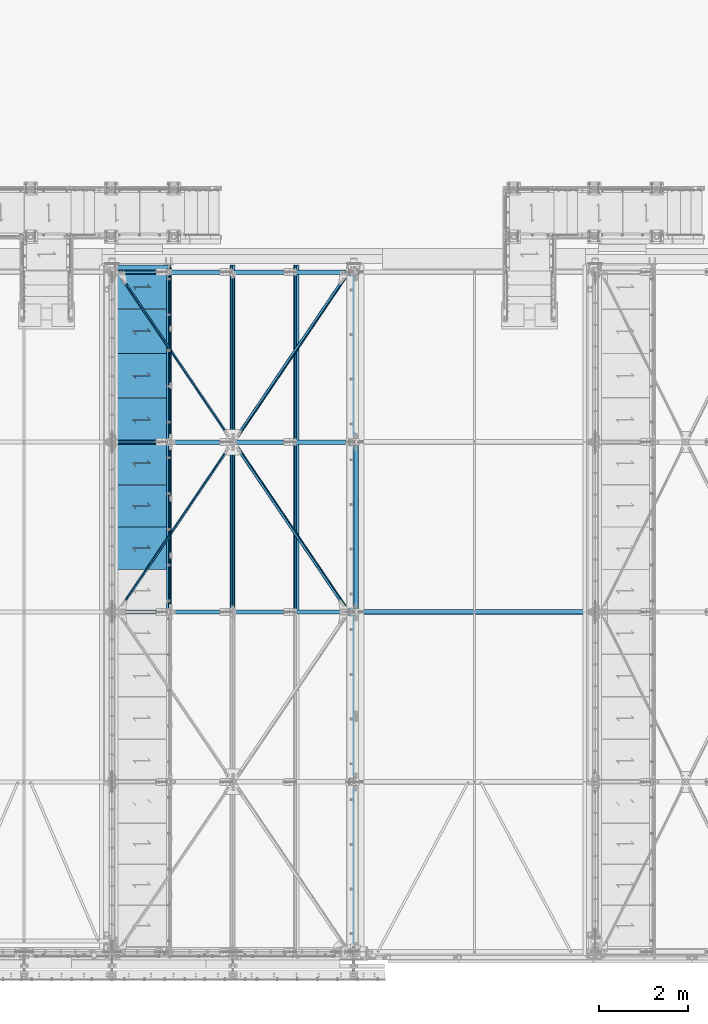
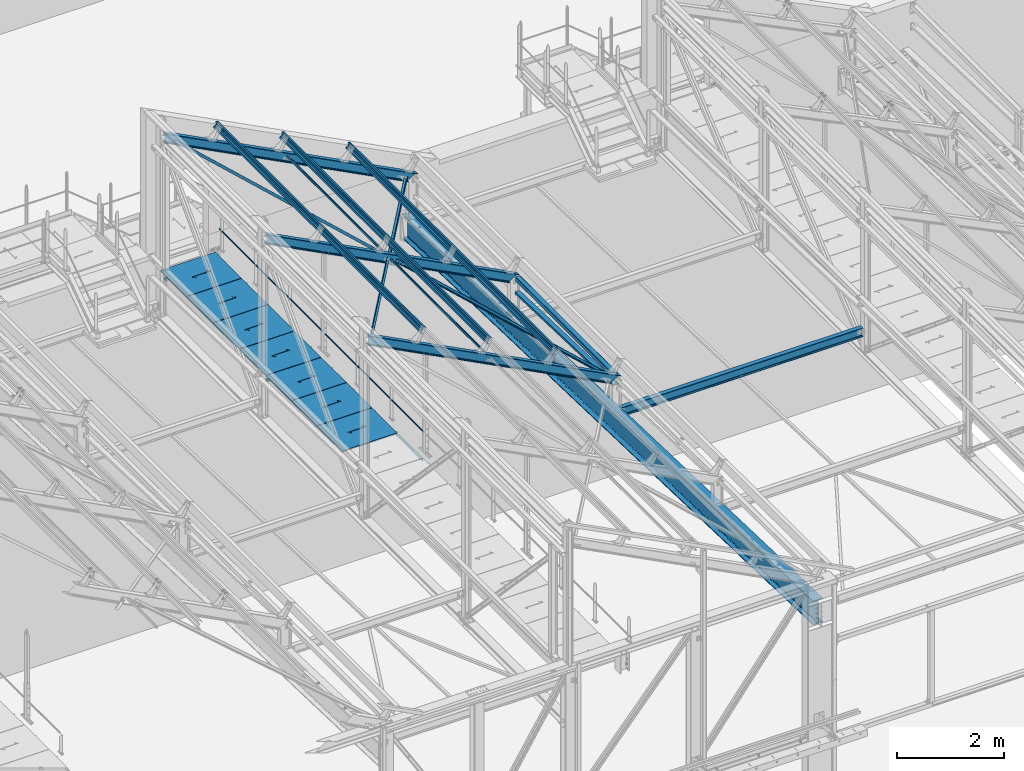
# One storey, part 51 of 362: 25 beams, 3 members, 28 elements without a shape of their own.
"""IFC2X3 building model written with IfcOpenShell, lengths in millimetres."""

from ifc_helpers import new_model, si_unit, frame, origin_with_axes, origin_2d_with_axis, place, context, subcontext, project, spatial, polyline, hollow_rectangle, hollow_circle, i_section, l_section, u_section, outline, extrude, boolean, clip, halfspace, material, type_object, element, aggregate, save


model = new_model("IFC2X3")

# Units and contexts
model_context = context("Model", 3, precision=1e-05, world=origin_with_axes())
body_context = subcontext(model_context, "Body", "Model", "MODEL_VIEW")
ifc_project = project(units=[si_unit("LENGTHUNIT", "METRE", prefix="MILLI"), si_unit("AREAUNIT", "SQUARE_METRE"), si_unit("VOLUMEUNIT", "CUBIC_METRE"), si_unit("MASSUNIT", "GRAM", prefix="KILO"), si_unit("TIMEUNIT", "SECOND"), si_unit("PLANEANGLEUNIT", "RADIAN"), si_unit("SOLIDANGLEUNIT", "STERADIAN"), si_unit("THERMODYNAMICTEMPERATUREUNIT", "DEGREE_CELSIUS"), si_unit("LUMINOUSINTENSITYUNIT", "LUMEN")], contexts=[model_context])

# Site, building, storey
site_placement = place(None, origin_with_axes())
site = spatial("IfcSite", under=ifc_project, at=site_placement, Name="Undefined", CompositionType="ELEMENT")
building_placement = place(site_placement, origin_with_axes())
building = spatial("IfcBuilding", under=site, at=building_placement, Name="Undefined", CompositionType="ELEMENT")
storey_placement = place(building_placement, origin_with_axes())
storey = spatial("IfcBuildingStorey", under=building, at=storey_placement, Name="Undefined", CompositionType="ELEMENT", Elevation=0.0)

# Assembly, beam
assembly_1_placement = place(storey_placement, origin_with_axes())
assembly_1 = element("IfcElementAssembly", 1, at=assembly_1_placement, inside=storey, Name="SUPPORT", AssemblyPlace="NOTDEFINED", PredefinedType="NOTDEFINED")
ifc_material_1 = material(Name="Undefined/S235-E24")
beam_type_1 = type_object("IfcBeamType", Name="L50*5", PredefinedType="NOTDEFINED")
beam_1_placement = place(assembly_1_placement, frame((24711.4916006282, 15280.0000894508, 8074.99999999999), z_axis=(-1.0, 0.0, 0.0), x_axis=(0.0, -1.0, 0.0)))
beam_1 = element("IfcBeam", 2, at=beam_1_placement, type_object=beam_type_1, material=ifc_material_1, Name="SUPPORT", ObjectType="L50*5", context=body_context, shape_type="SweptSolid", body=[
    extrude(l_section(Depth=50.0, Width=50.0, Thickness=5.0, FilletRadius=7.0, EdgeRadius=3.5, at=origin_2d_with_axis()), frame((7675.0000889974, 0.0, 0.0), z_axis=(-1.0, 0.0, 0.0), x_axis=(0.0, -1.0, 0.0)), (0.0, 0.0, 1.0), 7675.0),
])
aggregate(assembly_1, [beam_1])

assembly_2_placement = place(storey_placement, origin_with_axes())
assembly_2 = element("IfcElementAssembly", 3, at=assembly_2_placement, inside=storey, AssemblyPlace="NOTDEFINED", PredefinedType="NOTDEFINED")
beam_type_2 = type_object("IfcBeamType", Name="L60*6", PredefinedType="NOTDEFINED")
beam_2_placement = place(assembly_2_placement, frame((26190.921148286, 11401.8186771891, 9916.45624310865), z_axis=(0.460093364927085, 0.0, 0.887870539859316), x_axis=(0.538249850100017, -0.795292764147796, -0.278920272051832)))
beam_2 = element("IfcBeam", 4, at=beam_2_placement, type_object=beam_type_2, material=ifc_material_1, Name="STABILITE CVT", ObjectType="L60*6", context=body_context, shape_type="Clipping", body=[
    clip(clip(extrude(l_section(Depth=60.0, Width=60.0, Thickness=6.0, FilletRadius=8.0, EdgeRadius=4.0, at=origin_2d_with_axis()), frame((4708.91827219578, 3.96472565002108e-12, 1.30698737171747e-13), z_axis=(-1.0, 0.0, 0.0), x_axis=(0.0, -1.0, 0.0)), (0.0, 0.0, 1.0), 4639.72), halfspace(frame((4626.03623708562, -29.992213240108, -29.9999759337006), z_axis=(-1.0, 0.0, 0.0), x_axis=(0.0, 1.0, 0.0)), True)), halfspace(frame((152.083672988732, -29.9999899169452, -29.9999991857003), z_axis=(1.0, 0.0, 0.0), x_axis=(0.0, 0.0, 1.0)), True)),
])
aggregate(assembly_2, [beam_2])

assembly_3_placement = place(storey_placement, origin_with_axes())
assembly_3 = element("IfcElementAssembly", 5, at=assembly_3_placement, inside=storey, AssemblyPlace="NOTDEFINED", PredefinedType="NOTDEFINED")
beam_3_placement = place(assembly_3_placement, frame((26190.9211477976, 11398.1813225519, 9916.45624339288), z_axis=(-0.70611707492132, 0.606225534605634, 0.365908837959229), x_axis=(0.53824982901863, 0.795292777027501, -0.278920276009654)))
beam_3 = element("IfcBeam", 6, at=beam_3_placement, type_object=beam_type_2, material=ifc_material_1, Name="STABILITE CVT", ObjectType="L60*6", context=body_context, shape_type="Clipping", body=[
    clip(clip(extrude(l_section(Depth=60.0, Width=60.0, Thickness=6.0, FilletRadius=8.0, EdgeRadius=4.0, at=origin_2d_with_axis()), frame((4708.91859471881, 0.0, -1.88433877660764e-12), z_axis=(-1.0, 0.0, 0.0), x_axis=(0.0, -1.0, 0.0)), (0.0, 0.0, 1.0), 4639.72), halfspace(frame((4626.03655887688, 30.0000266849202, -30.0000000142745), z_axis=(1.0, 0.0, 0.0), x_axis=(0.0, -1.0, 0.0)), False)), halfspace(frame((152.084005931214, 30.0000008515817, -30.0000120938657), z_axis=(1.0, 0.0, 0.0), x_axis=(0.0, -1.0, 0.0)), True)),
])
aggregate(assembly_3, [beam_3])

assembly_4_placement = place(storey_placement, origin_with_axes())
assembly_4 = element("IfcElementAssembly", 7, at=assembly_4_placement, inside=storey, AssemblyPlace="NOTDEFINED", PredefinedType="NOTDEFINED")
beam_4_placement = place(assembly_4_placement, frame((23614.8650365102, 15198.1813229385, 11251.3647310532), z_axis=(0.706117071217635, 0.60622555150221, -0.365908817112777), x_axis=(0.538249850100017, -0.795292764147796, -0.278920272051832)))
beam_4 = element("IfcBeam", 8, at=beam_4_placement, type_object=beam_type_2, material=ifc_material_1, Name="STABILITE CVT", ObjectType="L60*6", context=body_context, shape_type="Clipping", body=[
    clip(clip(extrude(l_section(Depth=60.0, Width=60.0, Thickness=6.0, FilletRadius=8.0, EdgeRadius=4.0, at=origin_2d_with_axis()), frame((4700.97227080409, 1.30478191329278e-13, 3.37702242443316e-12), z_axis=(-1.0, 0.0, 0.0), x_axis=(0.0, -1.0, 0.0)), (0.0, 0.0, 1.0), 4623.83), halfspace(frame((4626.03048038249, 29.9999980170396, -30.0000009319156), z_axis=(1.0, 0.0, 0.0), x_axis=(0.0, -1.0, 0.0)), False)), halfspace(frame((152.083880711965, 30.0000252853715, 30.0001237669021), z_axis=(1.0, 0.0, 0.0), x_axis=(0.0, 0.0, -1.0)), True)),
])
aggregate(assembly_4, [beam_4])

assembly_5_placement = place(storey_placement, origin_with_axes())
assembly_5 = element("IfcElementAssembly", 9, at=assembly_5_placement, inside=storey, AssemblyPlace="NOTDEFINED", PredefinedType="NOTDEFINED")
beam_5_placement = place(assembly_5_placement, frame((23614.8650363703, 7601.81867620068, 11251.3647310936), z_axis=(0.460093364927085, 0.0, 0.887870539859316), x_axis=(0.53824982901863, 0.795292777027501, -0.278920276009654)))
beam_5 = element("IfcBeam", 10, at=beam_5_placement, type_object=beam_type_2, material=ifc_material_1, Name="STABILITE CVT", ObjectType="L60*6", context=body_context, shape_type="Clipping", body=[
    clip(clip(extrude(l_section(Depth=60.0, Width=60.0, Thickness=6.0, FilletRadius=8.0, EdgeRadius=4.0, at=origin_2d_with_axis()), frame((4700.97259588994, 1.95717300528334e-13, 2.60956400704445e-13), z_axis=(-1.0, 0.0, 0.0), x_axis=(0.0, -1.0, 0.0)), (0.0, 0.0, 1.0), 4623.83), halfspace(frame((4626.03080505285, -29.9999975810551, -30.0000004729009), z_axis=(1.0, 0.0, 0.0), x_axis=(0.0, 0.0, 1.0)), False)), halfspace(frame((152.084204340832, -30.0000009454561, -29.9999746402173), z_axis=(1.0, 0.0, 0.0), x_axis=(0.0, 0.0, 1.0)), True)),
])
aggregate(assembly_5, [beam_5])

assembly_6_placement = place(storey_placement, origin_with_axes())
assembly_6 = element("IfcElementAssembly", 11, at=assembly_6_placement, inside=storey, Name="LISSE", AssemblyPlace="NOTDEFINED", PredefinedType="NOTDEFINED")
beam_type_3 = type_object("IfcBeamType", Name="UPF-100*50*4", PredefinedType="NOTDEFINED")
beam_6_placement = place(assembly_6_placement, frame((28930.0000000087, 7600.0, 8291.42237510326), z_axis=(1.0, 0.0, 0.0), x_axis=(0.0, 0.99950644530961, -0.0314144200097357)))
beam_6 = element("IfcBeam", 12, at=beam_6_placement, type_object=beam_type_3, material=ifc_material_1, Name="LISSE CONTREBARDAGE", ObjectType="UPF-100*50*4", context=body_context, shape_type="Clipping", body=[
    clip(clip(extrude(u_section(Depth=100.0, FlangeWidth=50.0, WebThickness=4.0, FlangeThickness=4.0, at=origin_2d_with_axis()), frame((3748.43648207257, 2.60100030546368e-14, 0.0), z_axis=(-1.0, 0.0, 0.0), x_axis=(0.0, -1.0, 0.0)), (0.0, 0.0, 1.0), 3695.0), halfspace(frame((3745.62054377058, 39.0942342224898, 54.9999999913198), z_axis=(-0.999506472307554, -0.0314135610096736, 0.0), x_axis=(0.0, 0.0, 1.0)), True)), halfspace(frame((53.9255505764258, 35.049685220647, 54.9999999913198), z_axis=(-0.999506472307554, -0.0314135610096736, 0.0), x_axis=(0.0, 0.0, 1.0)), False)),
])
aggregate(assembly_6, [beam_6])

assembly_7_placement = place(storey_placement, origin_with_axes())
assembly_7 = element("IfcElementAssembly", 13, at=assembly_7_placement, inside=storey, Name="LISSE", AssemblyPlace="NOTDEFINED", PredefinedType="NOTDEFINED")
beam_type_4 = type_object("IfcBeamType", Name="TUBE-C-100*100*4", PredefinedType="NOTDEFINED")
beam_7_placement = place(assembly_7_placement, frame((28929.9999999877, 7670.0, 8500.0), z_axis=(0.0, 0.0, 1.0), x_axis=(0.0, 1.0, 0.0)))
beam_7 = element("IfcBeam", 14, at=beam_7_placement, type_object=beam_type_4, material=ifc_material_1, Name="LISSE ACROTERE", ObjectType="TUBE-C-100*100*4", context=body_context, shape_type="SweptSolid", body=[
    extrude(hollow_rectangle(XDim=100.0, YDim=100.0, WallThickness=4.0, InnerFilletRadius=4.0, OuterFilletRadius=8.0, at=origin_2d_with_axis()), frame((3660.0, 0.0, 0.0), z_axis=(-1.0, 0.0, 0.0), x_axis=(0.0, -1.0, 0.0)), (0.0, 0.0, 1.0), 3660.0),
])
aggregate(assembly_7, [beam_7])

assembly_8_placement = place(storey_placement, origin_with_axes())
assembly_8 = element("IfcElementAssembly", 15, at=assembly_8_placement, inside=storey, AssemblyPlace="NOTDEFINED", PredefinedType="NOTDEFINED")
beam_type_5 = type_object("IfcBeamType", Name="TOLE30*980", PredefinedType="NOTDEFINED")
beam_8_placement = place(assembly_8_placement, frame((24726.4915934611, 15355.0001427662, 8115.0), z_axis=(0.0, 0.0, 1.0), x_axis=(-1.0, 0.0, 0.0)))
beam_8 = element("IfcBeam", 16, at=beam_8_placement, type_object=beam_type_5, material=ifc_material_1, Name="CAILLEBOTIS", ObjectType="TOLE30*980", context=body_context, shape_type="CSG", body=[
    boolean("DIFFERENCE", extrude(outline(polyline([(0.0, 0.0), (1179.99169921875, 0.0), (1179.99169921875, 980.0), (-9.39995516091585e-07, 980.0), (0.0, 0.0)])), frame((0.0, 0.0, -15.0), z_axis=(0.0, 0.0, 1.0), x_axis=(1.0, 0.0, 0.0)), (0.0, 0.0, 1.0), 30.0), extrude(outline(polyline([(0.0, 0.0), (9.99999999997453, 6.91215973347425e-11), (10.0000000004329, 75.8578643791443), (282.842712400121, -196.984848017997), (282.842712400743, -96.9848480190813), (272.842712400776, -96.9848480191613), (272.842712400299, -172.842712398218), (0.0, 100.0), (0.0, 0.0)])), frame((724.286946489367, 555.710676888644, -17.5), z_axis=(0.0, 0.0, 1.0), x_axis=(-0.707106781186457, -0.707106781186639, 0.0)), (0.0, 0.0, 1.0), 35.0)),
])
aggregate(assembly_8, [beam_8])

assembly_9_placement = place(storey_placement, origin_with_axes())
assembly_9 = element("IfcElementAssembly", 17, at=assembly_9_placement, inside=storey, AssemblyPlace="NOTDEFINED", PredefinedType="NOTDEFINED")
beam_9_placement = place(assembly_9_placement, frame((24726.4915934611, 14365.0001475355, 8115.0), z_axis=(0.0, 0.0, 1.0), x_axis=(-1.0, 0.0, 0.0)))
beam_9 = element("IfcBeam", 18, at=beam_9_placement, type_object=beam_type_5, material=ifc_material_1, Name="CAILLEBOTIS", ObjectType="TOLE30*980", context=body_context, shape_type="CSG", body=[
    boolean("DIFFERENCE", extrude(outline(polyline([(0.0, 0.0), (1179.99169921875, 0.0), (1179.99169921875, 980.0), (-9.39995516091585e-07, 980.0), (0.0, 0.0)])), frame((0.0, 0.0, -15.0), z_axis=(0.0, 0.0, 1.0), x_axis=(1.0, 0.0, 0.0)), (0.0, 0.0, 1.0), 30.0), extrude(outline(polyline([(0.0, 0.0), (9.99999999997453, 6.91215973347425e-11), (10.0000000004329, 75.8578643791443), (282.842712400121, -196.984848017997), (282.842712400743, -96.9848480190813), (272.842712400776, -96.9848480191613), (272.842712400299, -172.842712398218), (0.0, 100.0), (0.0, 0.0)])), frame((724.286946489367, 555.710676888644, -17.5), z_axis=(0.0, 0.0, 1.0), x_axis=(-0.707106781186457, -0.707106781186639, 0.0)), (0.0, 0.0, 1.0), 35.0)),
])
aggregate(assembly_9, [beam_9])

assembly_10_placement = place(storey_placement, origin_with_axes())
assembly_10 = element("IfcElementAssembly", 19, at=assembly_10_placement, inside=storey, AssemblyPlace="NOTDEFINED", PredefinedType="NOTDEFINED")
beam_10_placement = place(assembly_10_placement, frame((24726.4915934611, 13375.0001523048, 8115.0), z_axis=(0.0, 0.0, 1.0), x_axis=(-1.0, 0.0, 0.0)))
beam_10 = element("IfcBeam", 20, at=beam_10_placement, type_object=beam_type_5, material=ifc_material_1, Name="CAILLEBOTIS", ObjectType="TOLE30*980", context=body_context, shape_type="CSG", body=[
    boolean("DIFFERENCE", extrude(outline(polyline([(0.0, 0.0), (1179.99169921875, 0.0), (1179.99169921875, 980.0), (-9.39995516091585e-07, 980.0), (0.0, 0.0)])), frame((0.0, 0.0, -15.0), z_axis=(0.0, 0.0, 1.0), x_axis=(1.0, 0.0, 0.0)), (0.0, 0.0, 1.0), 30.0), extrude(outline(polyline([(0.0, 0.0), (9.99999999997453, 6.91215973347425e-11), (10.0000000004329, 75.8578643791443), (282.842712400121, -196.984848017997), (282.842712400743, -96.9848480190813), (272.842712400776, -96.9848480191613), (272.842712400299, -172.842712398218), (0.0, 100.0), (0.0, 0.0)])), frame((724.286946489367, 555.710676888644, -17.5), z_axis=(0.0, 0.0, 1.0), x_axis=(-0.707106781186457, -0.707106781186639, 0.0)), (0.0, 0.0, 1.0), 35.0)),
])
aggregate(assembly_10, [beam_10])

assembly_11_placement = place(storey_placement, origin_with_axes())
assembly_11 = element("IfcElementAssembly", 21, at=assembly_11_placement, inside=storey, AssemblyPlace="NOTDEFINED", PredefinedType="NOTDEFINED")
beam_11_placement = place(assembly_11_placement, frame((24726.4915934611, 12385.000157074, 8115.0), z_axis=(0.0, 0.0, 1.0), x_axis=(-1.0, 0.0, 0.0)))
beam_11 = element("IfcBeam", 22, at=beam_11_placement, type_object=beam_type_5, material=ifc_material_1, Name="CAILLEBOTIS", ObjectType="TOLE30*980", context=body_context, shape_type="CSG", body=[
    boolean("DIFFERENCE", extrude(outline(polyline([(0.0, 0.0), (1179.99169921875, 0.0), (1179.99169921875, 980.0), (-9.39995516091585e-07, 980.0), (0.0, 0.0)])), frame((0.0, 0.0, -15.0), z_axis=(0.0, 0.0, 1.0), x_axis=(1.0, 0.0, 0.0)), (0.0, 0.0, 1.0), 30.0), extrude(outline(polyline([(0.0, 0.0), (9.99999999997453, 6.91215973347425e-11), (10.0000000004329, 75.8578643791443), (282.842712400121, -196.984848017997), (282.842712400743, -96.9848480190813), (272.842712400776, -96.9848480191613), (272.842712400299, -172.842712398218), (0.0, 100.0), (0.0, 0.0)])), frame((724.286946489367, 555.710676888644, -17.5), z_axis=(0.0, 0.0, 1.0), x_axis=(-0.707106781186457, -0.707106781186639, 0.0)), (0.0, 0.0, 1.0), 35.0)),
])
aggregate(assembly_11, [beam_11])

assembly_12_placement = place(storey_placement, origin_with_axes())
assembly_12 = element("IfcElementAssembly", 23, at=assembly_12_placement, inside=storey, AssemblyPlace="NOTDEFINED", PredefinedType="NOTDEFINED")
beam_type_6 = type_object("IfcBeamType", Name="TOLE30*940", PredefinedType="NOTDEFINED")
beam_12_placement = place(assembly_12_placement, frame((24726.4915991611, 9495.00015707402, 8115.0), z_axis=(0.0, 0.0, 1.0), x_axis=(-1.0, 0.0, 0.0)))
beam_12 = element("IfcBeam", 24, at=beam_12_placement, type_object=beam_type_6, material=ifc_material_1, Name="CAILLEBOTIS", ObjectType="TOLE30*940", context=body_context, shape_type="CSG", body=[
    boolean("DIFFERENCE", extrude(outline(polyline([(0.0, 0.0), (1179.99169921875, 0.0), (1179.99169921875, 940.0), (-9.39995516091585e-07, 940.0), (0.0, 0.0)])), frame((0.0, 0.0, -15.0), z_axis=(0.0, 0.0, 1.0), x_axis=(1.0, 0.0, 0.0)), (0.0, 0.0, 1.0), 30.0), extrude(outline(polyline([(0.0, 0.0), (9.99999999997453, 6.91215973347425e-11), (10.0000000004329, 75.8578643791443), (282.842712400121, -196.984848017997), (282.842712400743, -96.9848480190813), (272.842712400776, -96.9848480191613), (272.842712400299, -172.842712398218), (0.0, 100.0), (0.0, 0.0)])), frame((724.286946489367, 535.710676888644, -17.5), z_axis=(0.0, 0.0, 1.0), x_axis=(-0.707106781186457, -0.707106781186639, 0.0)), (0.0, 0.0, 1.0), 35.0)),
])
aggregate(assembly_12, [beam_12])

assembly_13_placement = place(storey_placement, origin_with_axes())
assembly_13 = element("IfcElementAssembly", 25, at=assembly_13_placement, inside=storey, AssemblyPlace="NOTDEFINED", PredefinedType="NOTDEFINED")
beam_13_placement = place(assembly_13_placement, frame((24726.4916048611, 10445.000157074, 8115.0), z_axis=(0.0, 0.0, 1.0), x_axis=(-1.0, 0.0, 0.0)))
beam_13 = element("IfcBeam", 26, at=beam_13_placement, type_object=beam_type_6, material=ifc_material_1, Name="CAILLEBOTIS", ObjectType="TOLE30*940", context=body_context, shape_type="CSG", body=[
    boolean("DIFFERENCE", extrude(outline(polyline([(0.0, 0.0), (1179.99169921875, 0.0), (1179.99169921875, 940.0), (-9.39995516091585e-07, 940.0), (0.0, 0.0)])), frame((0.0, 0.0, -15.0), z_axis=(0.0, 0.0, 1.0), x_axis=(1.0, 0.0, 0.0)), (0.0, 0.0, 1.0), 30.0), extrude(outline(polyline([(0.0, 0.0), (9.99999999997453, 6.91215973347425e-11), (10.0000000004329, 75.8578643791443), (282.842712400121, -196.984848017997), (282.842712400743, -96.9848480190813), (272.842712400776, -96.9848480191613), (272.842712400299, -172.842712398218), (0.0, 100.0), (0.0, 0.0)])), frame((724.286946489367, 535.710676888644, -17.5), z_axis=(0.0, 0.0, 1.0), x_axis=(-0.707106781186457, -0.707106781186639, 0.0)), (0.0, 0.0, 1.0), 35.0)),
])
aggregate(assembly_13, [beam_13])

assembly_14_placement = place(storey_placement, origin_with_axes())
assembly_14 = element("IfcElementAssembly", 27, at=assembly_14_placement, inside=storey, AssemblyPlace="NOTDEFINED", PredefinedType="NOTDEFINED")
beam_14_placement = place(assembly_14_placement, frame((24726.4916105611, 11395.0001618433, 8115.0), z_axis=(0.0, 0.0, 1.0), x_axis=(-1.0, 0.0, 0.0)))
beam_14 = element("IfcBeam", 28, at=beam_14_placement, type_object=beam_type_6, material=ifc_material_1, Name="CAILLEBOTIS", ObjectType="TOLE30*940", context=body_context, shape_type="CSG", body=[
    boolean("DIFFERENCE", extrude(outline(polyline([(0.0, 0.0), (1179.99169921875, 0.0), (1179.99169921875, 940.0), (-9.39995516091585e-07, 940.0), (0.0, 0.0)])), frame((0.0, 0.0, -15.0), z_axis=(0.0, 0.0, 1.0), x_axis=(1.0, 0.0, 0.0)), (0.0, 0.0, 1.0), 30.0), extrude(outline(polyline([(0.0, 0.0), (9.99999999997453, 6.91215973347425e-11), (10.0000000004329, 75.8578643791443), (282.842712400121, -196.984848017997), (282.842712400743, -96.9848480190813), (272.842712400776, -96.9848480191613), (272.842712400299, -172.842712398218), (0.0, 100.0), (0.0, 0.0)])), frame((724.286946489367, 535.710676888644, -17.5), z_axis=(0.0, 0.0, 1.0), x_axis=(-0.707106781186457, -0.707106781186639, 0.0)), (0.0, 0.0, 1.0), 35.0)),
])
aggregate(assembly_14, [beam_14])

assembly_15_placement = place(storey_placement, origin_with_axes())
assembly_15 = element("IfcElementAssembly", 29, at=assembly_15_placement, inside=storey, Name="MAIN COURANTE", AssemblyPlace="NOTDEFINED", PredefinedType="NOTDEFINED")
beam_type_7 = type_object("IfcBeamType", Name="TUBE-26.9*2", PredefinedType="NOTDEFINED")
beam_15_placement = place(assembly_15_placement, frame((24783.9916088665, 15300.003440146, 8673.7999966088), z_axis=(0.0, 0.0, 1.0), x_axis=(0.0, -1.0, 0.0)))
beam_15 = element("IfcBeam", 30, at=beam_15_placement, type_object=beam_type_7, material=ifc_material_1, Name="LISSE", ObjectType="TUBE-26.9*2", context=body_context, shape_type="SweptSolid", body=[
    extrude(hollow_circle(Radius=13.44999981, WallThickness=2.0, at=origin_2d_with_axis()), frame((3845.0034383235, -7.91283071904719e-22, 7.95128074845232e-22), z_axis=(-1.0, 0.0, 0.0), x_axis=(0.0, -1.0, 0.0)), (0.0, 0.0, 1.0), 3845.0),
])
aggregate(assembly_15, [beam_15])

assembly_16_placement = place(storey_placement, origin_with_axes())
assembly_16 = element("IfcElementAssembly", 31, at=assembly_16_placement, inside=storey, Name="MAIN COURANTE", AssemblyPlace="NOTDEFINED", PredefinedType="NOTDEFINED")
beam_16_placement = place(assembly_16_placement, frame((24783.9916060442, 11345.0000018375, 8673.79999937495), z_axis=(0.0, 0.0, 1.0), x_axis=(0.0, -1.0, 0.0)))
beam_16 = element("IfcBeam", 32, at=beam_16_placement, type_object=beam_type_7, material=ifc_material_1, Name="LISSE", ObjectType="TUBE-26.9*2", context=body_context, shape_type="SweptSolid", body=[
    extrude(hollow_circle(Radius=13.44999981, WallThickness=2.0, at=origin_2d_with_axis()), frame((3690.00000000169, 3.69000323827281e-24, 0.0), z_axis=(-1.0, 0.0, 0.0), x_axis=(0.0, -1.0, 0.0)), (0.0, 0.0, 1.0), 3690.0),
])
aggregate(assembly_16, [beam_16])

assembly_17_placement = place(storey_placement, origin_with_axes())
assembly_17 = element("IfcElementAssembly", 33, at=assembly_17_placement, inside=storey, AssemblyPlace="NOTDEFINED", PredefinedType="NOTDEFINED")
beam_type_8 = type_object("IfcBeamType", Name="TUBE-C-40*40*4", PredefinedType="NOTDEFINED")
beam_17_placement = place(assembly_17_placement, frame((26184.2061440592, 11320.001746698, 9908.67304663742), z_axis=(-0.887870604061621, -1.29999898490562e-08, 0.460093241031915), x_axis=(0.0, -1.0, 0.0)))
beam_17 = element("IfcBeam", 34, at=beam_17_placement, type_object=beam_type_8, material=ifc_material_1, Name="BUTON", ObjectType="TUBE-C-40*40*4", context=body_context, shape_type="SweptSolid", body=[
    extrude(hollow_rectangle(XDim=40.0, YDim=40.0, WallThickness=4.0, InnerFilletRadius=4.0, OuterFilletRadius=8.0, at=origin_2d_with_axis()), frame((3700.00159576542, -3.63797880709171e-12, -3.63797880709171e-12), z_axis=(-1.0, 0.0, 0.0), x_axis=(0.0, -1.0, 0.0)), (0.0, 0.0, 1.0), 3700.0),
])
aggregate(assembly_17, [beam_17])

assembly_18_placement = place(storey_placement, origin_with_axes())
assembly_18 = element("IfcElementAssembly", 35, at=assembly_18_placement, inside=storey, AssemblyPlace="NOTDEFINED", PredefinedType="NOTDEFINED")
beam_18_placement = place(assembly_18_placement, frame((26184.2061471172, 15180.0001509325, 9908.67304481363), z_axis=(-0.887870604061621, -1.29999898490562e-08, 0.460093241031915), x_axis=(-8.13000000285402e-07, -0.999999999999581, 4.20999999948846e-07)))
beam_18 = element("IfcBeam", 36, at=beam_18_placement, type_object=beam_type_8, material=ifc_material_1, Name="BUTON", ObjectType="TUBE-C-40*40*4", context=body_context, shape_type="SweptSolid", body=[
    extrude(hollow_rectangle(XDim=40.0, YDim=40.0, WallThickness=4.0, InnerFilletRadius=4.0, OuterFilletRadius=8.0, at=origin_2d_with_axis()), frame((3700.00150276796, -3.63797900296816e-12, -3.9175289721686e-19), z_axis=(-1.0, 0.0, 0.0), x_axis=(0.0, -1.0, 0.0)), (0.0, 0.0, 1.0), 3700.0),
])
aggregate(assembly_18, [beam_18])

assembly_19_placement = place(storey_placement, origin_with_axes())
assembly_19 = element("IfcElementAssembly", 37, at=assembly_19_placement, inside=storey, Name="PANNE SHED", AssemblyPlace="NOTDEFINED", PredefinedType="NOTDEFINED")
beam_type_9 = type_object("IfcBeamType", Name="B140/150", PredefinedType="NOTDEFINED")
beam_19_placement = place(assembly_19_placement, frame((27591.6811455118, 7605.00007961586, 9562.26025626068), z_axis=(0.460093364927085, 0.0, 0.887870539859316), x_axis=(0.0, 1.0, 0.0)))
beam_19 = element("IfcBeam", 38, at=beam_19_placement, type_object=beam_type_9, material=ifc_material_1, Name="PANNE SHED", ObjectType="B140/150", context=body_context, shape_type="SweptSolid", body=[
    extrude(outline(polyline([(-27.9999999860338, 36.0000000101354), (-27.999999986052, 70.0000000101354), (28.0000000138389, 70.0000000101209), (28.0000000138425, 58.0000000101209), (26.5000000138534, 58.0000000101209), (26.5000000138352, 68.5000000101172), (-26.4999999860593, 68.5000000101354), (-26.4999999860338, 36.7000007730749), (-1.49999998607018, 15.6999998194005), (-1.49999998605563, -15.6999997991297), (-26.4999999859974, -36.7000007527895), (-26.4999999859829, -68.49999998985), (26.5000000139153, -68.4999999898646), (26.500000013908, -57.9999999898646), (28.0000000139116, -57.9999999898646), (28.0000000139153, -69.9999999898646), (-27.9999999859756, -69.99999998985), (-27.9999999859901, -35.99999998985), (-2.99999998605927, -14.9999999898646), (-2.9999999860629, 15.0000000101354), (-27.9999999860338, 36.0000000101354)])), frame((7750.00000000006, -3.63797880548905e-12, 0.0), z_axis=(-1.0, 0.0, 0.0), x_axis=(0.0, -1.0, 0.0)), (0.0, 0.0, 1.0), 7750.0),
])
aggregate(assembly_19, [beam_19])

assembly_20_placement = place(storey_placement, origin_with_axes())
assembly_20 = element("IfcElementAssembly", 39, at=assembly_20_placement, inside=storey, Name="PANNE SHED", AssemblyPlace="NOTDEFINED", PredefinedType="NOTDEFINED")
beam_20_placement = place(assembly_20_placement, frame((26165.0561444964, 7605.00007961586, 10301.5352325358), z_axis=(0.460093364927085, 0.0, 0.887870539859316), x_axis=(0.0, 1.0, 0.0)))
beam_20 = element("IfcBeam", 40, at=beam_20_placement, type_object=beam_type_9, material=ifc_material_1, Name="PANNE SHED", ObjectType="B140/150", context=body_context, shape_type="SweptSolid", body=[
    extrude(outline(polyline([(-27.9999999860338, 36.0000000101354), (-27.999999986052, 70.0000000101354), (28.0000000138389, 70.0000000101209), (28.0000000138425, 58.0000000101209), (26.5000000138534, 58.0000000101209), (26.5000000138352, 68.5000000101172), (-26.4999999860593, 68.5000000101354), (-26.4999999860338, 36.7000007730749), (-1.49999998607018, 15.6999998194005), (-1.49999998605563, -15.6999997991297), (-26.4999999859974, -36.7000007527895), (-26.4999999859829, -68.49999998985), (26.5000000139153, -68.4999999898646), (26.500000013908, -57.9999999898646), (28.0000000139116, -57.9999999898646), (28.0000000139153, -69.9999999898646), (-27.9999999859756, -69.99999998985), (-27.9999999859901, -35.99999998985), (-2.99999998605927, -14.9999999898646), (-2.9999999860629, 15.0000000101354), (-27.9999999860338, 36.0000000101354)])), frame((7750.00000000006, -3.63797880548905e-12, 0.0), z_axis=(-1.0, 0.0, 0.0), x_axis=(0.0, -1.0, 0.0)), (0.0, 0.0, 1.0), 7750.0),
])
aggregate(assembly_20, [beam_20])

assembly_21_placement = place(storey_placement, origin_with_axes())
assembly_21 = element("IfcElementAssembly", 41, at=assembly_21_placement, inside=storey, Name="PANNE SHED", AssemblyPlace="NOTDEFINED", PredefinedType="NOTDEFINED")
beam_21_placement = place(assembly_21_placement, frame((24738.431143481, 7605.00007961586, 11040.8102088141), z_axis=(0.460093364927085, 0.0, 0.887870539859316), x_axis=(0.0, 1.0, 0.0)))
beam_21 = element("IfcBeam", 42, at=beam_21_placement, type_object=beam_type_9, material=ifc_material_1, Name="PANNE SHED", ObjectType="B140/150", context=body_context, shape_type="SweptSolid", body=[
    extrude(outline(polyline([(-27.9999999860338, 36.0000000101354), (-27.999999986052, 70.0000000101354), (28.0000000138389, 70.0000000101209), (28.0000000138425, 58.0000000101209), (26.5000000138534, 58.0000000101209), (26.5000000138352, 68.5000000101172), (-26.4999999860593, 68.5000000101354), (-26.4999999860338, 36.7000007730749), (-1.49999998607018, 15.6999998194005), (-1.49999998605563, -15.6999997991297), (-26.4999999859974, -36.7000007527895), (-26.4999999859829, -68.49999998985), (26.5000000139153, -68.4999999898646), (26.500000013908, -57.9999999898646), (28.0000000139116, -57.9999999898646), (28.0000000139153, -69.9999999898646), (-27.9999999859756, -69.99999998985), (-27.9999999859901, -35.99999998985), (-2.99999998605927, -14.9999999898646), (-2.9999999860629, 15.0000000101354), (-27.9999999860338, 36.0000000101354)])), frame((7750.00000000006, -3.63797880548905e-12, 0.0), z_axis=(-1.0, 0.0, 0.0), x_axis=(0.0, -1.0, 0.0)), (0.0, 0.0, 1.0), 7750.0),
])
aggregate(assembly_21, [beam_21])

assembly_22_placement = place(storey_placement, origin_with_axes())
assembly_22 = element("IfcElementAssembly", 43, at=assembly_22_placement, inside=storey, AssemblyPlace="NOTDEFINED", PredefinedType="NOTDEFINED")
beam_type_10 = type_object("IfcBeamType", Name="TUBE-C-60*60*3", PredefinedType="NOTDEFINED")
beam_22_placement = place(assembly_22_placement, frame((23547.9918295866, 15200.0, 8015.0), z_axis=(0.0, -1.0, 0.0), x_axis=(1.0, 0.0, 0.0)))
beam_22 = element("IfcBeam", 44, at=beam_22_placement, type_object=beam_type_10, material=ifc_material_1, Name="SOLIVE", ObjectType="TUBE-C-60*60*3", context=body_context, shape_type="SweptSolid", body=[
    extrude(hollow_rectangle(XDim=60.0, YDim=60.0, WallThickness=3.0, InnerFilletRadius=3.0, OuterFilletRadius=6.0, at=origin_2d_with_axis()), frame((1181.99977105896, 0.0, 0.0), z_axis=(-1.0, 0.0, 0.0), x_axis=(0.0, -1.0, 0.0)), (0.0, 0.0, 1.0), 1182.0),
])
aggregate(assembly_22, [beam_22])

assembly_23_placement = place(storey_placement, origin_with_axes())
assembly_23 = element("IfcElementAssembly", 45, at=assembly_23_placement, inside=storey, AssemblyPlace="NOTDEFINED", PredefinedType="NOTDEFINED")
beam_23_placement = place(assembly_23_placement, frame((23547.9918295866, 11400.0, 8015.0), z_axis=(0.0, -1.0, 0.0), x_axis=(1.0, 0.0, 0.0)))
beam_23 = element("IfcBeam", 46, at=beam_23_placement, type_object=beam_type_10, material=ifc_material_1, Name="SOLIVE", ObjectType="TUBE-C-60*60*3", context=body_context, shape_type="SweptSolid", body=[
    extrude(hollow_rectangle(XDim=60.0, YDim=60.0, WallThickness=3.0, InnerFilletRadius=3.0, OuterFilletRadius=6.0, at=origin_2d_with_axis()), frame((1181.99977105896, 0.0, 0.0), z_axis=(-1.0, 0.0, 0.0), x_axis=(0.0, -1.0, 0.0)), (0.0, 0.0, 1.0), 1182.0),
])
aggregate(assembly_23, [beam_23])

# Assembly, member
assembly_24_placement = place(storey_placement, origin_with_axes())
assembly_24 = element("IfcElementAssembly", 47, at=assembly_24_placement, inside=storey, Name="TRAVERSE SHED", AssemblyPlace="NOTDEFINED", PredefinedType="NOTDEFINED")
ifc_material_2 = material(Name="Undefined/S275-E28")
member_type = type_object("IfcMemberType", Name="IPE200", PredefinedType="NOTDEFINED")
member_1_placement = place(assembly_24_placement, frame((23493.9906758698, 15199.9999999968, 11280.2129396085), z_axis=(0.460093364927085, 0.0, 0.887870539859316), x_axis=(0.887870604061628, 0.0, -0.460093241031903)))
member_1 = element("IfcMember", 48, at=member_1_placement, type_object=member_type, material=ifc_material_2, Name="TRAVERSE SHED", ObjectType="IPE200", context=body_context, shape_type="Clipping", body=[
    clip(clip(extrude(i_section(OverallWidth=100.0, OverallDepth=200.0, WebThickness=5.599999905, FlangeThickness=8.5, FilletRadius=12.0, at=origin_2d_with_axis()), frame((6236.48041099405, -1.81898940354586e-12, 0.0), z_axis=(-1.0, 0.0, 0.0), x_axis=(0.0, -1.0, 0.0)), (0.0, 0.0, 1.0), 6347.61), halfspace(frame((6005.40058860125, -11399.9999999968, -99.9999999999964), z_axis=(0.854427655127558, 0.0, -0.519570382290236), x_axis=(0.0, -1.0, 0.0)), False)), halfspace(frame((5.77115893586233, 3.18409305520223e-09, 102.990606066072), z_axis=(-0.887870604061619, 0.0, -0.46009324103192), x_axis=(0.0, -1.0, 0.0)), False)),
])
aggregate(assembly_24, [member_1])

assembly_25_placement = place(storey_placement, origin_with_axes())
assembly_25 = element("IfcElementAssembly", 49, at=assembly_25_placement, inside=storey, Name="TRAVERSE SHED", AssemblyPlace="NOTDEFINED", PredefinedType="NOTDEFINED")
member_2_placement = place(assembly_25_placement, frame((23493.9906758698, 11399.9999999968, 11280.2129396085), z_axis=(0.460093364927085, 0.0, 0.887870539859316), x_axis=(0.887870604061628, 0.0, -0.460093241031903)))
member_2 = element("IfcMember", 50, at=member_2_placement, type_object=member_type, material=ifc_material_2, Name="TRAVERSE SHED", ObjectType="IPE200", context=body_context, shape_type="Clipping", body=[
    clip(clip(extrude(i_section(OverallWidth=100.0, OverallDepth=200.0, WebThickness=5.599999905, FlangeThickness=8.5, FilletRadius=12.0, at=origin_2d_with_axis()), frame((6236.48041099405, -1.81898940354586e-12, 0.0), z_axis=(-1.0, 0.0, 0.0), x_axis=(0.0, -1.0, 0.0)), (0.0, 0.0, 1.0), 6347.61), halfspace(frame((6005.40058860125, -7599.99999999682, -99.9999999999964), z_axis=(0.854427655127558, 0.0, -0.519570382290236), x_axis=(0.0, -1.0, 0.0)), False)), halfspace(frame((5.77115893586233, 3.18409305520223e-09, 102.990606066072), z_axis=(-0.887870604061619, 0.0, -0.46009324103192), x_axis=(0.0, -1.0, 0.0)), False)),
])
aggregate(assembly_25, [member_2])

assembly_26_placement = place(storey_placement, origin_with_axes())
assembly_26 = element("IfcElementAssembly", 51, at=assembly_26_placement, inside=storey, Name="TRAVERSE SHED", AssemblyPlace="NOTDEFINED", PredefinedType="NOTDEFINED")
member_3_placement = place(assembly_26_placement, frame((23493.9906758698, 7599.99999999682, 11280.2129396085), z_axis=(0.460093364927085, 0.0, 0.887870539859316), x_axis=(0.887870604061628, 0.0, -0.460093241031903)))
member_3 = element("IfcMember", 52, at=member_3_placement, type_object=member_type, material=ifc_material_2, Name="TRAVERSE SHED", ObjectType="IPE200", context=body_context, shape_type="Clipping", body=[
    clip(clip(extrude(i_section(OverallWidth=100.0, OverallDepth=200.0, WebThickness=5.599999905, FlangeThickness=8.5, FilletRadius=12.0, at=origin_2d_with_axis()), frame((6236.48041099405, -1.81898940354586e-12, 0.0), z_axis=(-1.0, 0.0, 0.0), x_axis=(0.0, -1.0, 0.0)), (0.0, 0.0, 1.0), 6347.61), halfspace(frame((6005.40058860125, -3799.99999999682, -99.9999999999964), z_axis=(0.854427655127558, 0.0, -0.519570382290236), x_axis=(0.0, -1.0, 0.0)), False)), halfspace(frame((5.77115893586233, 3.18409305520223e-09, 102.990606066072), z_axis=(-0.887870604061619, 0.0, -0.46009324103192), x_axis=(0.0, -1.0, 0.0)), False)),
])
aggregate(assembly_26, [member_3])

# Assembly, beam
assembly_27_placement = place(storey_placement, origin_with_axes())
assembly_27 = element("IfcElementAssembly", 53, at=assembly_27_placement, inside=storey, AssemblyPlace="NOTDEFINED", PredefinedType="NOTDEFINED")
beam_type_11 = type_object("IfcBeamType", Name="IPE200", PredefinedType="NOTDEFINED")
beam_24_placement = place(assembly_27_placement, frame((28989.9999999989, 7599.99999998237, 7711.11190929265), z_axis=(7.58071938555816e-11, 0.0314107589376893, 0.999506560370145), x_axis=(1.0, 0.0, 0.0)))
beam_24 = element("IfcBeam", 54, at=beam_24_placement, type_object=beam_type_11, material=ifc_material_2, Name="PANNE", ObjectType="IPE200", context=body_context, shape_type="SweptSolid", body=[
    extrude(i_section(OverallWidth=100.0, OverallDepth=200.0, WebThickness=5.599999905, FlangeThickness=8.5, FilletRadius=12.0, at=origin_2d_with_axis()), frame((5213.49999999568, 0.0, 0.0), z_axis=(-1.0, 0.0, 0.0), x_axis=(0.0, -1.0, 0.0)), (0.0, 0.0, 1.0), 5213.5),
])
aggregate(assembly_27, [beam_24])

assembly_28_placement = place(storey_placement, origin_with_axes())
assembly_28 = element("IfcElementAssembly", 55, at=assembly_28_placement, inside=storey, Name="TRAVERSE", AssemblyPlace="NOTDEFINED", PredefinedType="NOTDEFINED")
beam_type_12 = type_object("IfcBeamType", Name="IPE550", PredefinedType="NOTDEFINED")
beam_25_placement = place(assembly_28_placement, frame((28880.0000000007, -8.63795872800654, 7775.13569589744), z_axis=(-1.05403257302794e-09, -0.0314112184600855, -0.999506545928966), x_axis=(3.14103090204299e-11, 0.999506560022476, -0.0314107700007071)))
beam_25 = element("IfcBeam", 56, at=beam_25_placement, type_object=beam_type_12, material=ifc_material_2, Name="TRAVERSE", ObjectType="IPE550", context=body_context, shape_type="Clipping", body=[
    clip(clip(extrude(i_section(OverallWidth=210.0, OverallDepth=550.0, WebThickness=11.10000038, FlangeThickness=17.20000076, FilletRadius=24.0, at=origin_2d_with_axis()), frame((15397.5977849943, 0.0, 0.0), z_axis=(-1.0, 0.0, 0.0), x_axis=(0.0, -1.0, 0.0)), (0.0, 0.0, 1.0), 15385.4), halfspace(frame((15357.5780376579, -105.0, -275.0), z_axis=(0.999506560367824, 0.0, -0.0314107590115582), x_axis=(0.0314107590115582, 0.0, 0.999506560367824)), False)), halfspace(frame((21.2106227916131, -7.13043846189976e-10, -268.62776844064), z_axis=(-0.999506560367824, 0.0, 0.0314107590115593), x_axis=(0.0, 1.0, 0.0)), False)),
])
aggregate(assembly_28, [beam_25])

save(model, "model.ifc")
